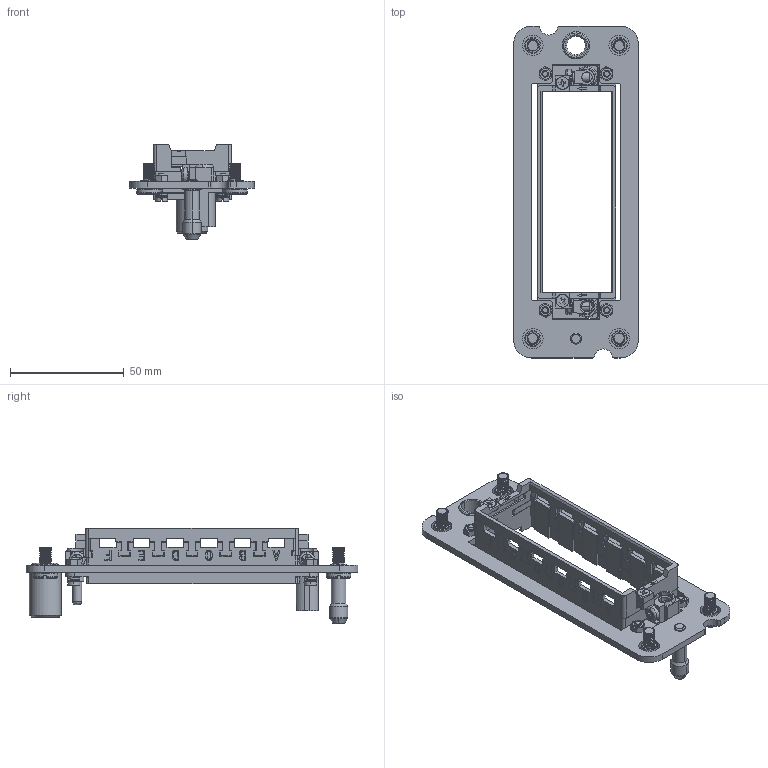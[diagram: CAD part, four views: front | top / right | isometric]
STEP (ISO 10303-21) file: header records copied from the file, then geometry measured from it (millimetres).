
FILE_DESCRIPTION (( 'STEP AP203' ), '1' );
FILE_NAME ('H24B-M6-F.STEP', '2021-10-29T00:58:50', ( '' ), ( '' ), 'SwSTEP 2.0', 'SolidWorks 2016', '' );
FILE_SCHEMA (( 'CONFIG_CONTROL_DESIGN' ));
Length unit declared in the file: millimetre
Products named in the file (1): H24B-M6-F
Bounding box: 55 x 146 x 42.2 mm (x, y, z)
Volume: 29292 mm3; surface area: 34603.1 mm2
Topology: 25 solids, 25 shells, 1623 faces, 4403 edges, 2878 vertices
Faces by surface type: plane 1003, cylinder 369, bspline 109, cone 102, torus 40
Entity records: 62426 total; most frequent: CARTESIAN_POINT 22440, ORIENTED_EDGE 8806, DIRECTION 7649, EDGE_CURVE 4403, VECTOR 3063, LINE 3063, VERTEX_POINT 2878, AXIS2_PLACEMENT_3D 2293
